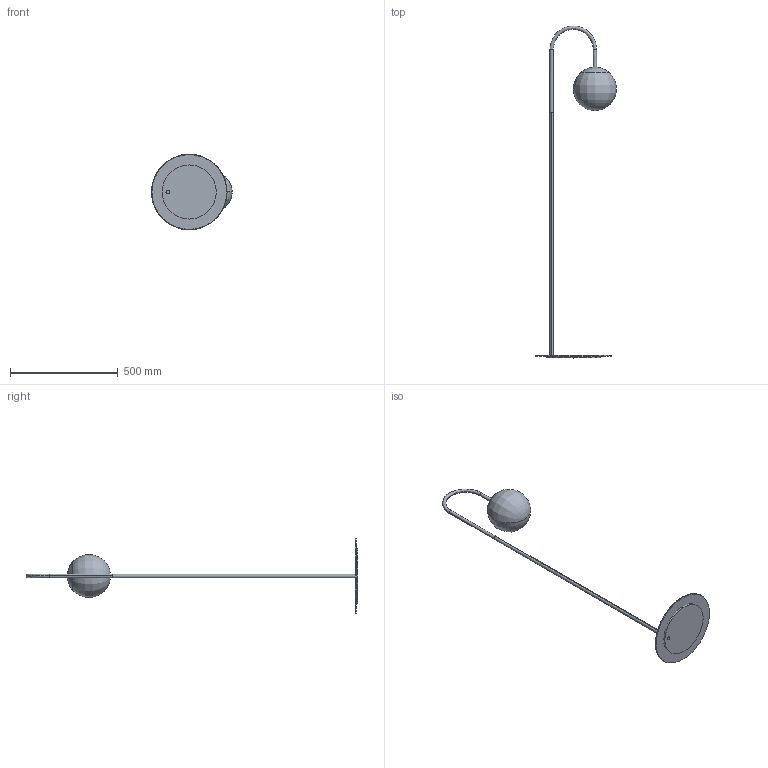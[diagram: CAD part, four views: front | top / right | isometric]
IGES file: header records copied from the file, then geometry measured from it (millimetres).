
Start section: SolidWorks IGES file using analytic representation for surfaces
Global section: file name: Y:\eforma\TECNICO\SOLIDWORKS\E-FORMA\09-LAMPADE\DECOR\02 parts\DECL1_Decor terra.IGS; native system: SolidWorks 2022; preprocessor: SolidWorks 2022; author: eforma.tech; date: 240806.103926; units: millimetre
Bounding box: 375.22 x 1538.34 x 350 mm (x, y, z)
Volume: 5743493 mm3; surface area: 552740.9 mm2
Topology: 5 solids, 5 shells, 34 faces, 131 edges, 103 vertices
Faces by surface type: revolution 17, bspline 10, plane 7
